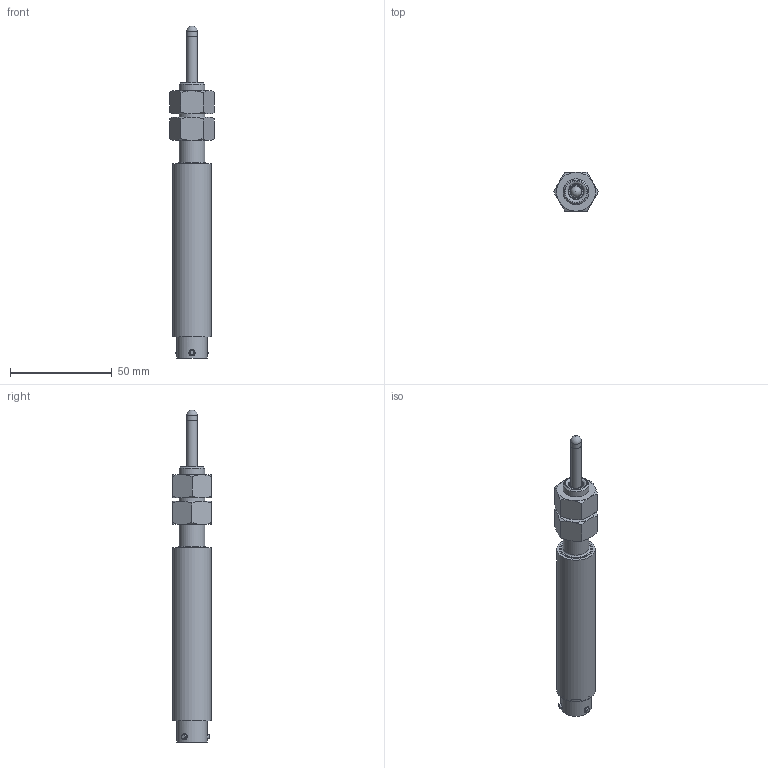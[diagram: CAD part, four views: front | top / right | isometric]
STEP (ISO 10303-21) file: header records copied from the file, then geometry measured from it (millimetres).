
FILE_DESCRIPTION(/* description */ (''),/* implementation_level */ '2;1');
FILE_NAME(/* name */ 'F:\GH SERIES\GH-750-A-XXXX\GH-750-A-250\GH-750-A-250 ASS''Y.iam.stp',/* time_stamp */ '2021-11-17T12:40:05-05:00',/* author */ ('Justin'),/* organization */ (''),/* preprocessor_version */ 'ST-DEVELOPER v18.1',/* originating_system */ 'Autodesk Inventor 2022',/* authorisation */ '');
FILE_SCHEMA (('AUTOMOTIVE_DESIGN { 1 0 10303 214 3 1 1 }'));
Length unit declared in the file: inch
Products named in the file (4): GH-750-A-250 ASS'Y; GH-750-A-250 HOUSING_SW; GH-750-A-050 SHAFT_SW; AS 2465 - 1/2  UNF
Assembly tree (4 placements, depth 2):
  GH-750-A-250 ASS'Y
    GH-750-A-250 HOUSING_SW
    GH-750-A-050 SHAFT_SW
    AS 2465 - 1/2  UNF  x2
Bounding box: 22 x 19.05 x 162.99 mm (x, y, z)
Volume: 19137.2 mm3; surface area: 20581.9 mm2
Topology: 12 solids, 12 shells, 184 faces, 365 edges, 232 vertices
Faces by surface type: plane 75, cylinder 59, cone 44, torus 4, bspline 1, sphere 1
Full cylindrical faces by diameter (mm): 0.762 x12, 2.032 x3, 2.845 x3, 3.048 x3, 4.826 x2, 5.334 x4, 5.397 x1, 7.671 x2, 7.874 x1, 11.328 x2, 12.7 x1, 13.208 x1, 14.986 x1, 15.748 x2, 16.51 x1, 17.069 x1, 18.034 x1, 18.415 x3, 19.05 x1
Entity records: 4742 total; most frequent: CARTESIAN_POINT 973, DIRECTION 778, ORIENTED_EDGE 626, AXIS2_PLACEMENT_3D 330, EDGE_CURVE 313, EDGE_LOOP 204, VERTEX_POINT 203, CIRCLE 162
